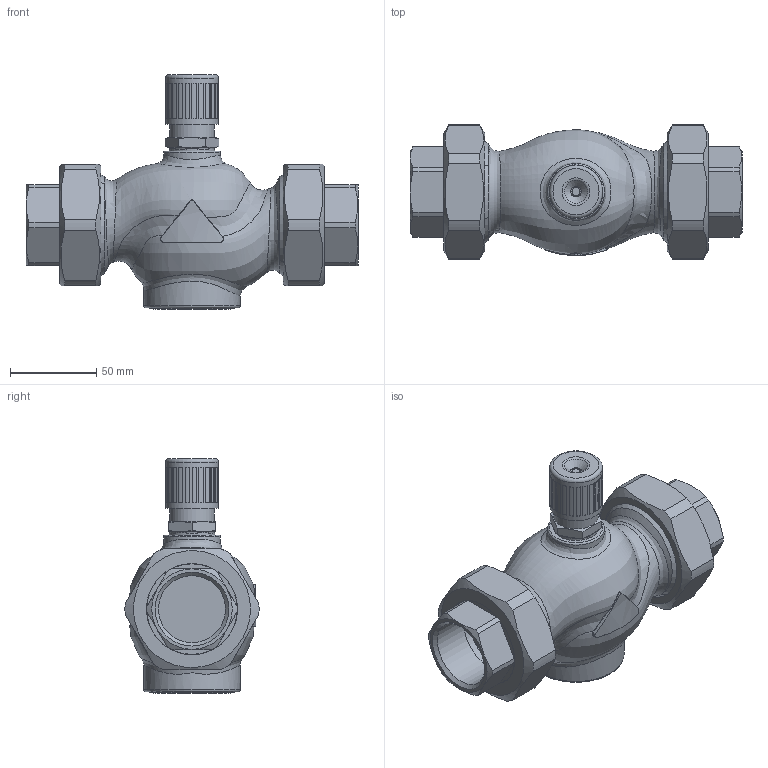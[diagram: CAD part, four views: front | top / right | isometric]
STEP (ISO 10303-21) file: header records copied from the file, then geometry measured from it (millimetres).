
FILE_DESCRIPTION(/* description */ (''),/* implementation_level */ '2;1');
FILE_NAME(/* name */ 'rv111r_dn32_2_T.stp',/* time_stamp */ '2012-02-21T13:38:30+01:00',/* author */ ('KLIMES'),/* organization */ ('LDM'),/* preprocessor_version */ 'ST-DEVELOPER v11',/* originating_system */ 'SIEMENS PLM Software NX 7.0',/* authorisation */ '');
FILE_SCHEMA (('CONFIG_CONTROL_DESIGN'));
Length unit declared in the file: millimetre
Products named in the file (1): klim56BEqbrc
Bounding box: 193 x 77.97 x 136.5 mm (x, y, z)
Volume: 596767.7 mm3; surface area: 98135.6 mm2
Topology: 8 solids, 8 shells, 306 faces, 716 edges, 463 vertices
Faces by surface type: plane 171, cone 53, cylinder 43, bspline 25, torus 14
Full cylindrical faces by diameter (mm): 8 x1, 23.4 x1, 24.117 x1, 26 x1, 26.5 x1, 30.8 x1, 33 x1, 38.952 x2, 44 x4, 49 x1, 52.6 x2, 53 x2, 56 x3, 56.3 x2, 56.656 x2, 59.614 x2
Entity records: 14158 total; most frequent: CARTESIAN_POINT 7534, DIRECTION 1338, ORIENTED_EDGE 1260, EDGE_CURVE 630, AXIS2_PLACEMENT_3D 537, VERTEX_POINT 438, EDGE_LOOP 416, ADVANCED_FACE 306
